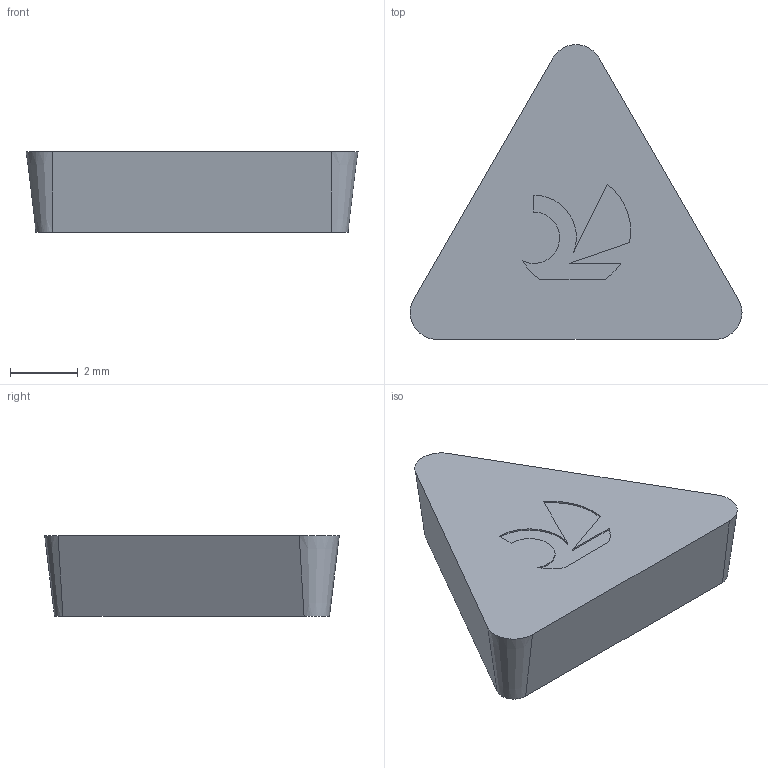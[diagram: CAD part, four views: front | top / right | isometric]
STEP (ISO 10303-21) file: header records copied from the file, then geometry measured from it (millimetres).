
FILE_DESCRIPTION(('no description'),'unknown implementation level');
FILE_NAME('solidLUL_JuCbh169R_bahxXc_brRHt8_1.STP',' ',('CIMSOURCE GmbH'),('CADClick - KiM GmbH - www.kimweb.de'),'unknown preprocess','ACIS','unknown authorization');
FILE_SCHEMA(('automotive_design'));
Length unit declared in the file: millimetre
Products named in the file (1): CUT
Bounding box: 9.84 x 8.73 x 2.38 mm (x, y, z)
Volume: 111.3 mm3; surface area: 163.6 mm2
Topology: 1 solids, 1 shells, 20 faces, 51 edges, 34 vertices
Faces by surface type: plane 11, cylinder 6, cone 3
Entity records: 1232 total; most frequent: DIRECTION 115, CARTESIAN_POINT 108, STYLED_ITEM 106, PRESENTATION_STYLE_ASSIGNMENT 106, COLOUR_RGB 106, ORIENTED_EDGE 102, EDGE_CURVE 51, CURVE_STYLE 51
